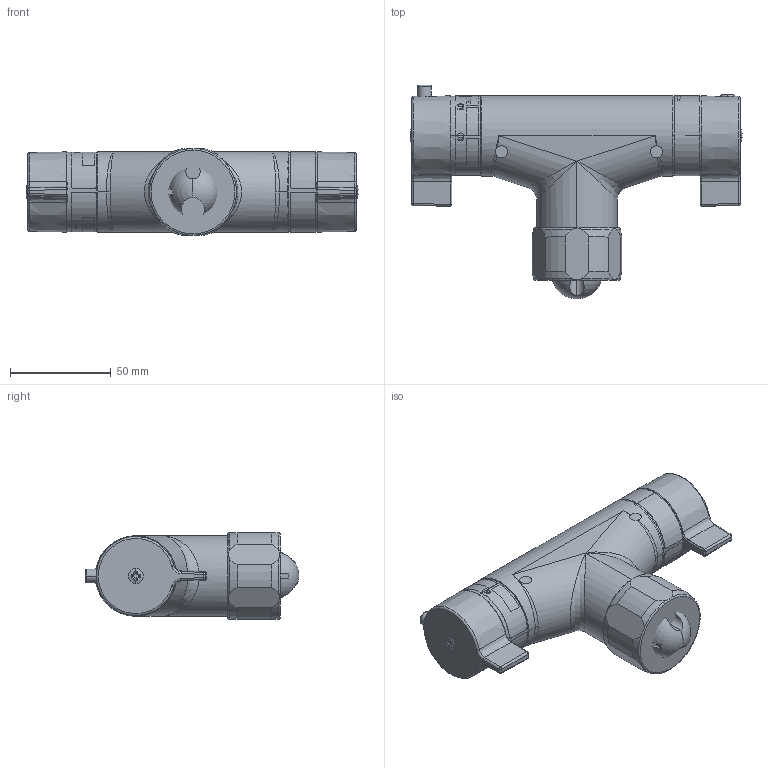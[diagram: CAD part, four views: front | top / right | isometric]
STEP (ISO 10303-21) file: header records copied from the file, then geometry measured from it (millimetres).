
FILE_DESCRIPTION((''),'2;1');
FILE_NAME('27880--_SUB01_SW0001','2026-10-07T11:01:23',('simi1'),(''),'CREO PARAMETRIC BY PTC INC, 2022244','CREO PARAMETRIC BY PTC INC, 2022244','');
FILE_SCHEMA(('CONFIG_CONTROL_DESIGN'));
Length unit declared in the file: millimetre
Products named in the file (1): 27880--_SUB01_SW0001
Bounding box: 164.84 x 106.15 x 43 mm (x, y, z)
Surface area: 45116.9 mm2 (no closed solid volume)
Topology: 0 solids, 79 shells, 240 faces, 1218 edges, 1047 vertices
Faces by surface type: plane 104, cylinder 57, bspline 32, cone 18, torus 15, sphere 14
Entity records: 14939 total; most frequent: CARTESIAN_POINT 6196, DIRECTION 1620, ORIENTED_EDGE 1559, EDGE_CURVE 1212, VERTEX_POINT 1047, VECTOR 564, LINE 564, AXIS2_PLACEMENT_3D 528
